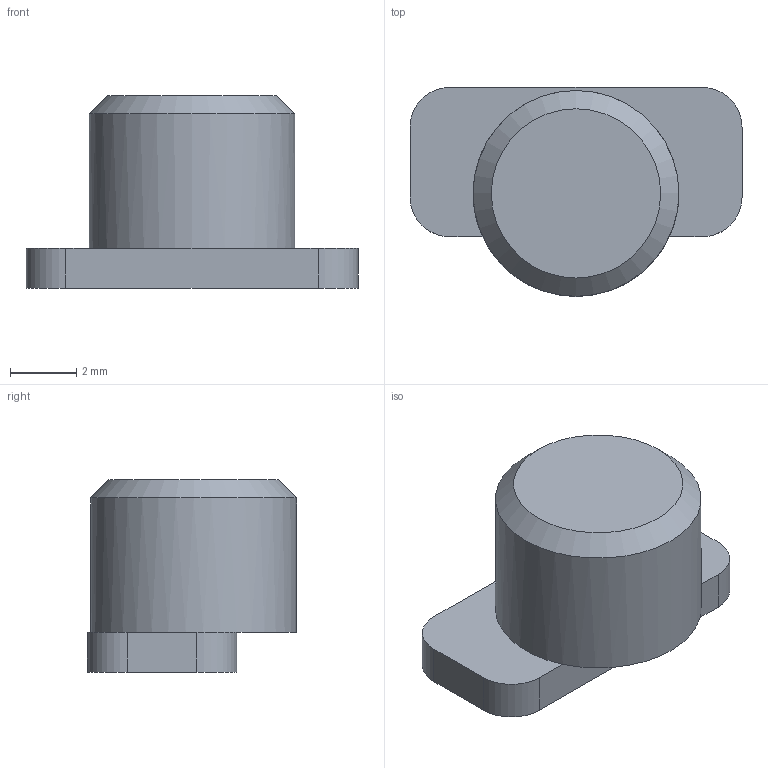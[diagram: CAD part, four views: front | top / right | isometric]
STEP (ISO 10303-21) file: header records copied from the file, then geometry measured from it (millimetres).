
FILE_DESCRIPTION(('Open CASCADE Model'),'2;1');
FILE_NAME('Open CASCADE Shape Model','2026-11-28T16:01:11',('Author'),( 'Open CASCADE'),'Open CASCADE STEP processor 8.0','build123d', 'Unknown');
FILE_SCHEMA(('AUTOMOTIVE_DESIGN { 1 0 10303 214 1 1 1 1 }'));
Length unit declared in the file: millimetre
Products named in the file (2): =>[0:1:1:2]; SOLID
Assembly tree (1 placements, depth 2):
  =>[0:1:1:2]
    SOLID
Bounding box: 10 x 6.3 x 5.8 mm (x, y, z)
Volume: 188.6 mm3; surface area: 217.3 mm2
Topology: 1 solids, 1 shells, 14 faces, 33 edges, 21 vertices
Faces by surface type: plane 8, cylinder 5, cone 1
Full cylindrical faces by diameter (mm): 6.2 x1
Entity records: 883 total; most frequent: CARTESIAN_POINT 188, DIRECTION 132, LINE 70, VECTOR 70, ORIENTED_EDGE 66, PCURVE 66, DEFINITIONAL_REPRESENTATION 66, EDGE_CURVE 33
